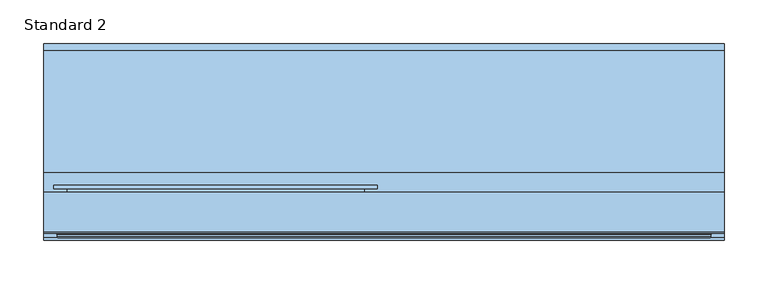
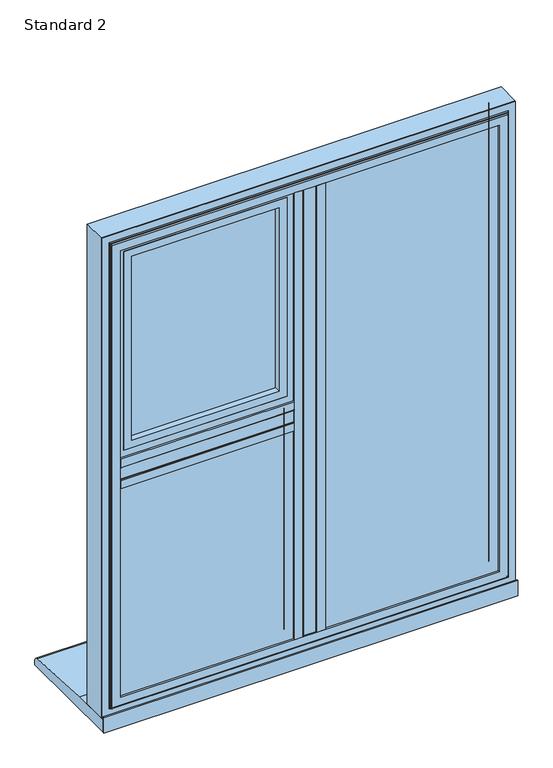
"""IFC4 building model written with IfcOpenShell, lengths in millimetres: window geometry, SMARTS_AlithermHeritage : Standard 2."""

from ifc_helpers import new_model, si_unit, point, frame, frame_2d, origin, place, context, project, spatial, polyline, circle_curve, ellipse_curve, trimmed, segment, composite_curve, outline, extrude, faceted_brep, source, transform, mapped, element, save
from ifc_brep_helpers import plane_surface, cylinder_surface, revolved_surface, advanced_brep


def standard_2_606d7e47(model_context):
    return source(origin(), model_context, "Body", "SolidModel", [
        extrude(outline(polyline([(-13.6941456, 95.2798432), (13.6941456, 95.2798432), (13.6941456, 47.279476), (-13.6941456, 47.279476), (-13.6941456, 95.2798432)])), frame((0.0, 0.0, 652.6941456), z_axis=(0.0, 0.0, 1.0), x_axis=(1.0, 0.0, 0.0)), (0.0, 0.0, 1.0), 919.6117089),
        extrude(outline(composite_curve([segment(polyline([(-29.0, 47.279476), (29.0, 47.279476), (29.0, 43.2798432), (13.0, 43.2798432)]), True, "CONTINUOUS"), segment(trimmed(circle_curve(frame_2d((13.0, 44.2798432)), 1.0), [point((13.0, 43.2798432))], [point((12.0, 44.2798432))], False, "CARTESIAN"), True, "CONTINUOUS"), segment(polyline([(12.0, 44.2798432), (12.0, 45.7798432), (-12.0, 45.7798432), (-12.0, 44.2798432)]), True, "CONTINUOUS"), segment(trimmed(circle_curve(frame_2d((-13.0, 44.2798432)), 1.0), [point((-12.0, 44.2798432))], [point((-13.0, 43.2798432))], False, "CARTESIAN"), True, "CONTINUOUS"), segment(polyline([(-13.0, 43.2798432), (-29.0, 43.2798432), (-29.0, 47.279476)]), True, "CONTINUOUS")], self_intersect=False)), frame((0.0, 0.0, 668.0), z_axis=(0.0, 0.0, 1.0), x_axis=(1.0, 0.0, 0.0)), (0.0, 0.0, 1.0), 889.0),
        extrude(outline(polyline([(-13.6941456, 95.2798432), (-13.6941456, 47.279476), (-372.3058544, 47.279476), (-372.3058544, 95.2798432), (-13.6941456, 95.2798432)])), frame((0.0, 0.0, 1098.8058544), z_axis=(0.0, 0.0, 1.0), x_axis=(1.0, 0.0, 0.0)), (0.0, 0.0, 1.0), 27.3882911),
        extrude(outline(composite_curve([segment(polyline([(47.279476, 1083.5), (43.2798432, 1083.5), (43.2798432, 1099.5)]), True, "CONTINUOUS"), segment(trimmed(circle_curve(frame_2d((44.2798432, 1099.5)), 1.0), [point((43.2798432, 1099.5))], [point((44.2798432, 1100.5))], False, "CARTESIAN"), True, "CONTINUOUS"), segment(polyline([(44.2798432, 1100.5), (45.7798432, 1100.5), (45.7798432, 1124.5), (44.2798432, 1124.5)]), True, "CONTINUOUS"), segment(trimmed(circle_curve(frame_2d((44.2798432, 1125.5)), 1.0), [point((44.2798432, 1124.5))], [point((43.2798432, 1125.5))], False, "CARTESIAN"), True, "CONTINUOUS"), segment(polyline([(43.2798432, 1125.5), (43.2798432, 1141.5), (47.279476, 1141.5), (47.279476, 1083.5)]), True, "CONTINUOUS")], self_intersect=False)), frame((-357.0, 0.0, 0.0), z_axis=(1.0, 0.0, 0.0), x_axis=(0.0, 1.0, 0.0)), (0.0, 0.0, 1.0), 328.0),
        extrude(outline(polyline([(-367.0, 75.2798432), (-19.0, 75.2798432), (-19.0, 71.2798432), (-367.0, 71.2798432), (-367.0, 75.2798432)])), frame((0.0, 0.0, 658.0), z_axis=(0.0, 0.0, 1.0), x_axis=(1.0, 0.0, 0.0)), (0.0, 0.0, 1.0), 435.5),
        extrude(outline(polyline([(-367.0, 55.2798432), (-19.0, 55.2798432), (-19.0, 51.2798432), (-367.0, 51.2798432), (-367.0, 55.2798432)])), frame((0.0, 0.0, 658.0), z_axis=(0.0, 0.0, 1.0), x_axis=(1.0, 0.0, 0.0)), (0.0, 0.0, 1.0), 435.5),
        extrude(outline(polyline([(1093.5, -367.0), (658.0, -367.0), (658.0, -19.0), (1093.5, -19.0), (1093.5, -367.0)]), holes=[polyline([(1083.5, -29.0), (668.0, -29.0), (668.0, -357.0), (1083.5, -357.0), (1083.5, -29.0)])]), frame((0.0, 55.2798432, 0.0), z_axis=(0.0, 1.0, 0.0), x_axis=(0.0, 0.0, 1.0)), (0.0, 0.0, 1.0), 16.0),
        faceted_brep([(-19.1851151, 95.2798432, 1093.3148849), (-29.0, 78.2798098, 1083.5), (-357.0, 78.2798098, 1083.5), (-366.8148849, 95.2798432, 1093.3148849), (-13.6297324, 78.2798098, 1098.8702676), (-13.6297324, 95.2798432, 1098.8702676), (-372.3702676, 95.2798432, 1098.8702676), (-372.3702676, 78.2798098, 1098.8702676), (-372.3702676, 78.2798098, 652.6297324), (-372.3702676, 95.2798432, 652.6297324), (-13.6297324, 95.2798432, 652.6297324), (-13.6297324, 78.2798098, 652.6297324), (-366.8148849, 95.2798432, 658.1851151), (-19.1851151, 95.2798432, 658.1851151), (-29.0, 78.2798098, 668.0), (-357.0, 78.2798098, 668.0)], [[[0, 1, 2, 3]], [[4, 5, 6, 7]], [[8, 9, 10, 11]], [[5, 10, 9, 6], [3, 12, 13, 0]], [[7, 8, 11, 4], [1, 14, 15, 2]], [[3, 2, 15, 12]], [[7, 6, 9, 8]], [[12, 15, 14, 13]], [[13, 14, 1, 0]], [[11, 10, 5, 4]]]),
        extrude(outline(polyline([(-343.5, 89.2798432), (-42.5, 89.2798432), (-42.5, 85.2798432), (-343.5, 85.2798432), (-343.5, 89.2798432)])), frame((0.0, 0.0, 1155.0), z_axis=(0.0, 0.0, 1.0), x_axis=(1.0, 0.0, 0.0)), (0.0, 0.0, 1.0), 388.5),
        extrude(outline(polyline([(-343.5, 69.2798432), (-42.5, 69.2798432), (-42.5, 65.2798432), (-343.5, 65.2798432), (-343.5, 69.2798432)])), frame((0.0, 0.0, 1155.0), z_axis=(0.0, 0.0, 1.0), x_axis=(1.0, 0.0, 0.0)), (0.0, 0.0, 1.0), 388.5),
        extrude(outline(polyline([(1543.5, -343.5), (1155.0, -343.5), (1155.0, -42.5), (1543.5, -42.5), (1543.5, -343.5)]), holes=[polyline([(1533.5, -52.5), (1165.0, -52.5), (1165.0, -333.5), (1533.5, -333.5), (1533.5, -52.5)])]), frame((0.0, 69.2798432, 0.0), z_axis=(0.0, 1.0, 0.0), x_axis=(0.0, 0.0, 1.0)), (0.0, 0.0, 1.0), 16.0),
        extrude(outline(polyline([(1547.0052956, -347.0052956), (1151.4947044, -347.0052956), (1151.4947044, -38.9947044), (1547.0052956, -38.9947044), (1547.0052956, -347.0052956)]), holes=[polyline([(1532.0, -54.0), (1166.5, -54.0), (1166.5, -332.0), (1532.0, -332.0), (1532.0, -54.0)])]), frame((0.0, 51.2798432, 0.0), z_axis=(0.0, 1.0, 0.0), x_axis=(0.0, 0.0, 1.0)), (0.0, 0.0, 1.0), 11.3),
        extrude(outline(polyline([(1135.8548042, -362.6451958), (1135.8548042, -23.3548042), (1562.6451958, -23.3548042), (1562.6451958, -362.6451958), (1135.8548042, -362.6451958)]), holes=[polyline([(1547.0, -347.0), (1547.0, -39.0), (1151.5, -39.0), (1151.5, -347.0), (1547.0, -347.0)])]), frame((0.0, 51.2798432, 0.0), z_axis=(0.0, 1.0, 0.0), x_axis=(0.0, 0.0, 1.0)), (0.0, 0.0, 1.0), 41.6),
        advanced_brep(
        [(-332.0, 98.0798432, 1532.0), (-332.0, 92.8798432, 1532.0), (-332.0, 92.8798432, 1166.5), (-332.0, 98.0798432, 1166.5), (-54.0, 92.8798432, 1166.5), (-54.0, 98.0798432, 1166.5), (-54.0, 92.8798432, 1532.0), (-54.0, 98.0798432, 1532.0), (-378.2, 99.2798432, 1578.2), (-378.2, 103.2798432, 1578.2), (-378.2, 103.2798432, 1120.3), (-378.2, 99.2798432, 1120.3), (-7.8, 103.2798432, 1120.3), (-7.8, 99.2798432, 1120.3), (-7.8, 103.2798432, 1578.2), (-7.8, 99.2798432, 1578.2), (-363.1467657, 99.2798432, 1563.1467657), (-22.8532343, 99.2798432, 1563.1467657), (-22.8532343, 99.2798432, 1135.3532343), (-363.1467657, 99.2798432, 1135.3532343), (-349.2, 103.2798432, 1149.3), (-36.8, 103.2798432, 1149.3), (-36.8, 103.2798432, 1549.2), (-349.2, 103.2798432, 1549.2), (-363.1467657, 92.8798432, 1563.1467657), (-363.1467657, 92.8798432, 1135.3532343), (-22.8532343, 92.8798432, 1135.3532343), (-22.8532343, 92.8798432, 1563.1467657), (-347.2, 101.2798432, 1547.2), (-347.2, 100.0798432, 1547.2), (-347.2, 100.0798432, 1151.3), (-347.2, 101.2798432, 1151.3), (-345.2, 98.0798432, 1545.2), (-345.2, 98.0798432, 1153.3), (-38.8, 100.0798432, 1151.3), (-38.8, 101.2798432, 1151.3), (-40.8, 98.0798432, 1153.3), (-38.8, 100.0798432, 1547.2), (-38.8, 101.2798432, 1547.2), (-40.8, 98.0798432, 1545.2)],
        [
            (0, 1),
            (1, 2),
            (2, 3),
            (3, 0),
            (2, 4),
            (4, 5),
            (5, 3),
            (4, 6),
            (6, 7),
            (7, 5),
            (6, 1),
            (0, 7),
            (8, 9),
            (9, 10),
            (10, 11),
            (11, 8),
            (10, 12),
            (12, 13),
            (13, 11),
            (12, 14),
            (14, 15),
            (15, 13),
            (15, 8),
            (16, 17),
            (17, 18),
            (18, 19),
            (19, 16),
            (14, 9),
            (20, 21),
            (21, 22),
            (22, 23),
            (23, 20),
            (24, 16),
            (19, 25),
            (25, 24),
            (18, 26),
            (26, 25),
            (17, 27),
            (27, 26),
            (27, 24),
            (28, 29),
            (29, 30),
            (30, 31),
            (31, 28),
            (29, 32, ellipse_curve(frame((-345.2, 100.0798432, 1545.2), z_axis=(0.7071067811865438, 0.0, 0.7071067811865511), x_axis=(0.707106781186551, 0.0, -0.7071067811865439)), 2.8284271, 2.0)),
            (32, 33),
            (33, 30, ellipse_curve(frame((-345.2, 100.0798432, 1153.3), z_axis=(0.7071067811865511, 0.0, -0.7071067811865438), x_axis=(-0.7071067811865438, 0.0, -0.7071067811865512)), 2.8284271, 2.0)),
            (30, 34),
            (34, 35),
            (35, 31),
            (33, 36),
            (36, 34, ellipse_curve(frame((-40.8, 100.0798432, 1153.3), z_axis=(0.7071067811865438, 0.0, 0.7071067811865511), x_axis=(0.7071067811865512, 0.0, -0.7071067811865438)), 2.8284271, 2.0)),
            (34, 37),
            (37, 38),
            (38, 35),
            (36, 39),
            (39, 37, ellipse_curve(frame((-40.8, 100.0798432, 1545.2), z_axis=(-0.7071067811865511, 0.0, 0.7071067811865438), x_axis=(0.7071067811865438, 0.0, 0.7071067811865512)), 2.8284271, 2.0)),
            (32, 39),
            (37, 29),
            (28, 38),
            (23, 28, ellipse_curve(frame((-349.2, 101.2798432, 1549.2), z_axis=(-0.7071067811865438, 0.0, -0.7071067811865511), x_axis=(-0.707106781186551, 0.0, 0.7071067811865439)), 2.8284271, 2.0)),
            (31, 20, ellipse_curve(frame((-349.2, 101.2798432, 1149.3), z_axis=(-0.7071067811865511, 0.0, 0.7071067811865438), x_axis=(0.7071067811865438, 0.0, 0.7071067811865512)), 2.8284271, 2.0)),
            (35, 21, ellipse_curve(frame((-36.8, 101.2798432, 1149.3), z_axis=(-0.7071067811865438, 0.0, -0.7071067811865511), x_axis=(-0.7071067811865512, 0.0, 0.7071067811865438)), 2.8284271, 2.0)),
            (38, 22, ellipse_curve(frame((-36.8, 101.2798432, 1549.2), z_axis=(0.7071067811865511, 0.0, -0.7071067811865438), x_axis=(-0.7071067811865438, 0.0, -0.7071067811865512)), 2.8284271, 2.0)),
        ],
        [
            plane_surface(frame((-332.0, 92.8798432, 1532.0), z_axis=(1.0, 0.0, 0.0), x_axis=(0.0, 0.0, -1.0))),
            plane_surface(frame((-332.0, 92.8798432, 1166.5), z_axis=(0.0, 0.0, 1.0), x_axis=(1.0, 0.0, 0.0))),
            plane_surface(frame((-54.0, 92.8798432, 1166.5), z_axis=(-1.0, 0.0, 0.0), x_axis=(0.0, 0.0, 1.0))),
            plane_surface(frame((-54.0, 92.8798432, 1532.0), z_axis=(0.0, 0.0, -1.0), x_axis=(-1.0, 0.0, 0.0))),
            plane_surface(frame((-378.2, 103.2798432, 1578.2), z_axis=(-1.0, 0.0, 0.0), x_axis=(0.0, 0.0, -1.0))),
            plane_surface(frame((-378.2, 103.2798432, 1120.3), z_axis=(0.0, 0.0, -1.0), x_axis=(1.0, 0.0, 0.0))),
            plane_surface(frame((-7.8, 103.2798432, 1120.3), z_axis=(1.0, 0.0, 0.0), x_axis=(0.0, 0.0, 1.0))),
            plane_surface(frame((-7.8, 99.2798432, 1578.2), z_axis=(0.0, -1.0, 0.0), x_axis=(-1.0, 0.0, 0.0))),
            plane_surface(frame((-7.8, 103.2798432, 1578.2), z_axis=(0.0, 0.0, 1.0), x_axis=(-1.0, 0.0, 0.0))),
            plane_surface(frame((-36.8, 103.2798432, 1549.2), z_axis=(0.0, 1.0, 0.0), x_axis=(-1.0, 0.0, 0.0))),
            plane_surface(frame((-363.1467657, 99.2798432, 1563.1467657), z_axis=(-1.0, 0.0, 0.0), x_axis=(0.0, 0.0, -1.0))),
            plane_surface(frame((-363.1467657, 99.2798432, 1135.3532343), z_axis=(0.0, 0.0, -1.0), x_axis=(1.0, 0.0, 0.0))),
            plane_surface(frame((-22.8532343, 99.2798432, 1135.3532343), z_axis=(1.0, 0.0, 0.0), x_axis=(0.0, 0.0, 1.0))),
            plane_surface(frame((-22.8532343, 92.8798432, 1563.1467657), z_axis=(0.0, -1.0, 0.0), x_axis=(-1.0, 0.0, 0.0))),
            plane_surface(frame((-22.8532343, 99.2798432, 1563.1467657), z_axis=(0.0, 0.0, 1.0), x_axis=(-1.0, 0.0, 0.0))),
            plane_surface(frame((-347.2, 100.0798432, 1547.2), z_axis=(1.0, 0.0, 0.0), x_axis=(0.0, 0.0, -1.0))),
            revolved_surface(polyline([(-347.2, 100.0798432, 1151.3), (-347.2, 100.0798432, 1547.2)]), (-345.2, 100.0798432, 1557.0), (0.0, 0.0, -1.0)),
            plane_surface(frame((-347.2, 100.0798432, 1151.3), z_axis=(0.0, 0.0, 1.0), x_axis=(1.0, 0.0, 0.0))),
            revolved_surface(polyline([(-38.80000000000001, 100.0798432, 1151.3), (-347.2, 100.0798432, 1151.3)]), (-357.0, 100.0798432, 1153.3), (1.0, 0.0, 0.0)),
            plane_surface(frame((-38.8, 100.0798432, 1151.3), z_axis=(-1.0, 0.0, 0.0), x_axis=(0.0, 0.0, 1.0))),
            revolved_surface(polyline([(-38.8, 100.0798432, 1547.2), (-38.8, 100.0798432, 1151.3)]), (-40.8, 100.0798432, 1141.5), (0.0, 0.0, 1.0)),
            plane_surface(frame((-54.0, 98.0798432, 1532.0), z_axis=(0.0, 1.0, 0.0), x_axis=(-1.0, 0.0, 0.0))),
            plane_surface(frame((-38.8, 100.0798432, 1547.2), z_axis=(0.0, 0.0, -1.0), x_axis=(-1.0, 0.0, 0.0))),
            revolved_surface(polyline([(-347.2, 100.0798432, 1547.2), (-38.8, 100.0798432, 1547.2)]), (-29.0, 100.0798432, 1545.2), (-1.0, 0.0, 0.0)),
            cylinder_surface(frame((-349.2, 101.2798432, 1557.0), z_axis=(0.0, 0.0, 1.0), x_axis=(-1.0, 0.0, 0.0)), 2.0),
            cylinder_surface(frame((-357.0, 101.2798432, 1149.3), z_axis=(-1.0, 0.0, 0.0), x_axis=(0.0, 0.0, -1.0)), 2.0),
            cylinder_surface(frame((-36.8, 101.2798432, 1141.5), z_axis=(0.0, 0.0, -1.0), x_axis=(1.0, 0.0, 0.0)), 2.0),
            cylinder_surface(frame((-29.0, 101.2798432, 1549.2), z_axis=(1.0, 0.0, 0.0), x_axis=(0.0, 0.0, 1.0)), 2.0),
        ],
        [
            (0, [[1, 2, 3, 4]]),
            (1, [[-3, 5, 6, 7]]),
            (2, [[-6, 8, 9, 10]]),
            (3, [[-9, 11, -1, 12]]),
            (4, [[13, 14, 15, 16]]),
            (5, [[-15, 17, 18, 19]]),
            (6, [[-18, 20, 21, 22]]),
            (7, [[-19, -22, 23, -16], [24, 25, 26, 27]]),
            (8, [[-21, 28, -13, -23]]),
            (9, [[-28, -20, -17, -14], [29, 30, 31, 32]]),
            (10, [[33, -27, 34, 35]]),
            (11, [[-34, -26, 36, 37]]),
            (12, [[-36, -25, 38, 39]]),
            (13, [[-37, -39, 40, -35], [-11, -8, -5, -2]]),
            (14, [[-38, -24, -33, -40]]),
            (15, [[41, 42, 43, 44]]),
            (16, [[45, 46, 47, -42]]),
            (17, [[-43, 48, 49, 50]]),
            (18, [[-47, 51, 52, -48]]),
            (19, [[-49, 53, 54, 55]]),
            (20, [[-52, 56, 57, -53]]),
            (21, [[58, -56, -51, -46], [-7, -10, -12, -4]]),
            (22, [[-54, 59, -41, 60]]),
            (23, [[-57, -58, -45, -59]]),
            (24, [[61, -44, 62, -32]]),
            (25, [[-62, -50, 63, -29]]),
            (26, [[-63, -55, 64, -30]]),
            (27, [[-64, -60, -61, -31]]),
        ],
    ),
        extrude(outline(polyline([(1590.0, 390.0), (1590.0, -390.0), (635.0, -390.0), (635.0, 390.0), (1590.0, 390.0)]), holes=[polyline([(652.7000182, 372.2999818), (652.7000182, -372.2999818), (1572.2999818, -372.2999818), (1572.2999818, 372.2999818), (652.7000182, 372.2999818)])]), frame((0.0, 50.279857, 0.0), z_axis=(0.0, 1.0, 0.0), x_axis=(0.0, 0.0, 1.0)), (0.0, 0.0, 1.0), 44.9999962),
        advanced_brep(
        [(357.0, 43.2798432, 1557.0), (357.0, 47.2798432, 1557.0), (357.0, 47.2798432, 668.0), (357.0, 43.2798432, 668.0), (390.0, 50.279857, 1590.0), (390.0, 48.279857, 1590.0), (390.0, 48.279857, 635.0), (390.0, 50.279857, 635.0), (372.4999818, 43.2798432, 1572.4999818), (-372.4999818, 43.2798432, 1572.4999818), (-372.4999818, 43.2798432, 652.5000182), (372.4999818, 43.2798432, 652.5000182), (-357.0, 43.2798432, 668.0), (-357.0, 43.2798432, 1557.0), (-390.0, 50.279857, 1590.0), (-390.0, 48.279857, 1590.0), (-390.0, 50.279857, 635.0), (372.2999818, 50.279857, 1572.2999818), (-372.2999818, 50.279857, 1572.2999818), (-372.2999818, 50.279857, 652.7000182), (372.2999818, 50.279857, 652.7000182), (-357.0, 47.2798432, 1557.0), (-357.0, 47.2798432, 668.0), (-390.0, 48.279857, 635.0), (-372.2999818, 47.2798432, 1572.2999818), (372.2999818, 47.2798432, 1572.2999818), (372.2999818, 47.2798432, 652.7000182), (374.4999818, 46.779857, 650.5000182), (374.4999818, 45.2798432, 650.5000182), (-374.4999818, 45.2798432, 650.5000182), (-374.4999818, 46.779857, 650.5000182), (374.4999818, 46.779857, 1574.4999818), (374.4999818, 45.2798432, 1574.4999818), (-372.2999818, 47.2798432, 652.7000182), (-374.4999818, 45.2798432, 1574.4999818), (-374.4999818, 46.779857, 1574.4999818), (375.9999818, 48.279857, 1575.9999818), (375.9999818, 48.279857, 649.0000182), (-375.9999818, 48.279857, 649.0000182), (-375.9999818, 48.279857, 1575.9999818)],
        [
            (0, 1),
            (1, 2),
            (2, 3),
            (3, 0),
            (4, 5),
            (5, 6),
            (6, 7),
            (7, 4),
            (8, 9),
            (9, 10),
            (10, 11),
            (11, 8),
            (3, 12),
            (12, 13),
            (13, 0),
            (14, 15),
            (15, 5),
            (4, 14),
            (7, 16),
            (16, 14),
            (17, 18),
            (18, 19),
            (19, 20),
            (20, 17),
            (13, 21),
            (21, 1),
            (2, 22),
            (22, 12),
            (22, 21),
            (6, 23),
            (23, 16),
            (23, 15),
            (24, 18),
            (17, 25),
            (25, 24),
            (20, 26),
            (26, 25),
            (27, 28),
            (28, 29),
            (29, 30),
            (30, 27),
            (31, 32),
            (32, 28),
            (27, 31),
            (19, 33),
            (33, 26),
            (24, 33),
            (29, 34),
            (34, 35),
            (35, 30),
            (34, 32),
            (31, 35),
            (36, 31, ellipse_curve(frame((375.9999818, 46.779857, 1575.9999818), z_axis=(-0.7071067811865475, 0.0, 0.7071067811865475), x_axis=(-0.7071067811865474, 0.0, -0.7071067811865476)), 2.1213203, 1.5)),
            (27, 37, ellipse_curve(frame((375.9999818, 46.779857, 649.0000182), z_axis=(-0.7071067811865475, 0.0, -0.7071067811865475), x_axis=(0.7071067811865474, 0.0, -0.7071067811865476)), 2.1213203, 1.5)),
            (37, 36),
            (30, 38, ellipse_curve(frame((-375.9999818, 46.779857, 649.0000182), z_axis=(-0.7071067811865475, 0.0, 0.7071067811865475), x_axis=(-0.7071067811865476, 0.0, -0.7071067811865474)), 2.1213203, 1.5)),
            (38, 37),
            (35, 39, ellipse_curve(frame((-375.9999818, 46.779857, 1575.9999818), z_axis=(0.7071067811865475, 0.0, 0.7071067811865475), x_axis=(-0.7071067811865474, 0.0, 0.7071067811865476)), 2.1213203, 1.5)),
            (39, 38),
            (36, 39),
            (32, 8, ellipse_curve(frame((372.4999818, 45.2798432, 1572.4999818), z_axis=(0.7071067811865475, 0.0, -0.7071067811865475), x_axis=(0.7071067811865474, 0.0, 0.7071067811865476)), 2.8284271, 2.0)),
            (11, 28, ellipse_curve(frame((372.4999818, 45.2798432, 652.5000182), z_axis=(0.7071067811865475, 0.0, 0.7071067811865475), x_axis=(-0.7071067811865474, 0.0, 0.7071067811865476)), 2.8284271, 2.0)),
            (10, 29, ellipse_curve(frame((-372.4999818, 45.2798432, 652.5000182), z_axis=(0.7071067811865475, 0.0, -0.7071067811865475), x_axis=(0.7071067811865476, 0.0, 0.7071067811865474)), 2.8284271, 2.0)),
            (9, 34, ellipse_curve(frame((-372.4999818, 45.2798432, 1572.4999818), z_axis=(-0.7071067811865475, 0.0, -0.7071067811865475), x_axis=(0.7071067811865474, 0.0, -0.7071067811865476)), 2.8284271, 2.0)),
        ],
        [
            plane_surface(frame((357.0, 47.2798432, 1557.0), z_axis=(-1.0, 0.0, 0.0), x_axis=(0.0, 0.0, -1.0))),
            plane_surface(frame((390.0, 48.279857, 1590.0), z_axis=(1.0, 0.0, 0.0), x_axis=(0.0, 0.0, -1.0))),
            plane_surface(frame((-357.0, 43.2798432, 1557.0), z_axis=(0.0, -1.0, 0.0), x_axis=(1.0, 0.0, 0.0))),
            plane_surface(frame((-390.0, 48.279857, 1590.0), z_axis=(0.0, 0.0, 1.0), x_axis=(1.0, 0.0, 0.0))),
            plane_surface(frame((-390.0, 50.279857, 1590.0), z_axis=(0.0, 1.0, 0.0), x_axis=(1.0, 0.0, 0.0))),
            plane_surface(frame((-357.0, 47.2798432, 1557.0), z_axis=(0.0, 0.0, -1.0), x_axis=(1.0, 0.0, 0.0))),
            plane_surface(frame((357.0, 47.2798432, 668.0), z_axis=(0.0, 0.0, 1.0), x_axis=(-1.0, 0.0, 0.0))),
            plane_surface(frame((-357.0, 47.2798432, 668.0), z_axis=(1.0, 0.0, 0.0), x_axis=(0.0, 0.0, 1.0))),
            plane_surface(frame((390.0, 48.279857, 635.0), z_axis=(0.0, 0.0, -1.0), x_axis=(-1.0, 0.0, 0.0))),
            plane_surface(frame((-390.0, 48.279857, 635.0), z_axis=(-1.0, 0.0, 0.0), x_axis=(0.0, 0.0, 1.0))),
            plane_surface(frame((-372.2999818, 50.279857, 1572.2999818), z_axis=(0.0, 0.0, -1.0), x_axis=(1.0, 0.0, 0.0))),
            plane_surface(frame((372.2999818, 50.279857, 1572.2999818), z_axis=(-1.0, 0.0, 0.0), x_axis=(0.0, 0.0, -1.0))),
            plane_surface(frame((374.4999818, 45.2798432, 650.5000182), z_axis=(0.0, 0.0, -1.0), x_axis=(-1.0, 0.0, 0.0))),
            plane_surface(frame((374.4999818, 45.2798432, 1574.4999818), z_axis=(1.0, 0.0, 0.0), x_axis=(0.0, 0.0, -1.0))),
            plane_surface(frame((372.2999818, 50.279857, 652.7000182), z_axis=(0.0, 0.0, 1.0), x_axis=(-1.0, 0.0, 0.0))),
            plane_surface(frame((-372.2999818, 50.279857, 652.7000182), z_axis=(1.0, 0.0, 0.0), x_axis=(0.0, 0.0, 1.0))),
            plane_surface(frame((-374.4999818, 45.2798432, 650.5000182), z_axis=(-1.0, 0.0, 0.0), x_axis=(0.0, 0.0, 1.0))),
            plane_surface(frame((-372.2999818, 47.2798432, 1572.2999818), z_axis=(0.0, 1.0, 0.0), x_axis=(1.0, 0.0, 0.0))),
            plane_surface(frame((-374.4999818, 45.2798432, 1574.4999818), z_axis=(0.0, 0.0, 1.0), x_axis=(1.0, 0.0, 0.0))),
            revolved_surface(polyline([(374.4999818, 46.779857, 647.5000182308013), (374.4999818, 46.779857, 1577.4999817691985)]), (375.9999818, 46.779857, 1590.0), (0.0, 0.0, -1.0)),
            revolved_surface(polyline([(-377.4999817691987, 46.779857, 650.5000182), (377.49998176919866, 46.779857, 650.5000182)]), (390.0, 46.779857, 649.0000182), (-1.0, 0.0, 0.0)),
            revolved_surface(polyline([(-374.4999818, 46.779857, 1577.4999817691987), (-374.4999818, 46.779857, 647.5000182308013)]), (-375.9999818, 46.779857, 635.0), (0.0, 0.0, 1.0)),
            revolved_surface(polyline([(377.4999817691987, 46.779857, 1574.4999818), (-377.49998176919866, 46.779857, 1574.4999818)]), (-390.0, 46.779857, 1575.9999818), (1.0, 0.0, 0.0)),
            plane_surface(frame((-375.9999818, 48.279857, 1575.9999818), z_axis=(0.0, -1.0, 0.0), x_axis=(1.0, 0.0, 0.0))),
            cylinder_surface(frame((372.4999818, 45.2798432, 1590.0), z_axis=(0.0, 0.0, 1.0), x_axis=(-1.0, 0.0, 0.0)), 2.0),
            cylinder_surface(frame((390.0, 45.2798432, 652.5000182), z_axis=(1.0, 0.0, 0.0), x_axis=(0.0, 0.0, 1.0)), 2.0),
            cylinder_surface(frame((-372.4999818, 45.2798432, 635.0), z_axis=(0.0, 0.0, -1.0), x_axis=(1.0, 0.0, 0.0)), 2.0),
            cylinder_surface(frame((-390.0, 45.2798432, 1572.4999818), z_axis=(-1.0, 0.0, 0.0), x_axis=(0.0, 0.0, -1.0)), 2.0),
        ],
        [
            (0, [[1, 2, 3, 4]]),
            (1, [[5, 6, 7, 8]]),
            (2, [[9, 10, 11, 12], [13, 14, 15, -4]]),
            (3, [[16, 17, -5, 18]]),
            (4, [[19, 20, -18, -8], [21, 22, 23, 24]]),
            (5, [[25, 26, -1, -15]]),
            (6, [[-3, 27, 28, -13]]),
            (7, [[-28, 29, -25, -14]]),
            (8, [[-7, 30, 31, -19]]),
            (9, [[-31, 32, -16, -20]]),
            (10, [[33, -21, 34, 35]]),
            (11, [[-34, -24, 36, 37]]),
            (12, [[38, 39, 40, 41]]),
            (13, [[42, 43, -38, 44]]),
            (14, [[-36, -23, 45, 46]]),
            (15, [[-45, -22, -33, 47]]),
            (16, [[-40, 48, 49, 50]]),
            (17, [[-46, -47, -35, -37], [-26, -29, -27, -2]]),
            (18, [[-49, 51, -42, 52]]),
            (19, [[53, -44, 54, 55]]),
            (20, [[-54, -41, 56, 57]]),
            (21, [[-56, -50, 58, 59]]),
            (22, [[-58, -52, -53, 60]]),
            (23, [[-17, -32, -30, -6], [-57, -59, -60, -55]]),
            (24, [[61, -12, 62, -43]]),
            (25, [[-62, -11, 63, -39]]),
            (26, [[-63, -10, 64, -48]]),
            (27, [[-64, -9, -61, -51]]),
        ],
    ),
        extrude(outline(polyline([(19.0, 75.2798432), (367.0, 75.2798432), (367.0, 71.2798432), (19.0, 71.2798432), (19.0, 75.2798432)])), frame((0.0, 0.0, 658.0), z_axis=(0.0, 0.0, 1.0), x_axis=(1.0, 0.0, 0.0)), (0.0, 0.0, 1.0), 909.0),
        extrude(outline(polyline([(19.0, 55.2798432), (367.0, 55.2798432), (367.0, 51.2798432), (19.0, 51.2798432), (19.0, 55.2798432)])), frame((0.0, 0.0, 658.0), z_axis=(0.0, 0.0, 1.0), x_axis=(1.0, 0.0, 0.0)), (0.0, 0.0, 1.0), 909.0),
        extrude(outline(polyline([(1567.0, 19.0), (658.0, 19.0), (658.0, 367.0), (1567.0, 367.0), (1567.0, 19.0)]), holes=[polyline([(1557.0, 357.0), (668.0, 357.0), (668.0, 29.0), (1557.0, 29.0), (1557.0, 357.0)])]), frame((0.0, 55.2798432, 0.0), z_axis=(0.0, 1.0, 0.0), x_axis=(0.0, 0.0, 1.0)), (0.0, 0.0, 1.0), 16.0),
        faceted_brep([(366.8148849, 95.2798432, 1566.8148849), (357.0, 78.2798098, 1557.0), (29.0, 78.2798098, 1557.0), (19.1851151, 95.2798432, 1566.8148849), (372.3702676, 78.2798098, 1572.3702676), (372.3702676, 95.2798432, 1572.3702676), (13.6297324, 95.2798432, 1572.3702676), (13.6297324, 78.2798098, 1572.3702676), (13.6297324, 78.2798098, 652.6297324), (13.6297324, 95.2798432, 652.6297324), (372.3702676, 95.2798432, 652.6297324), (372.3702676, 78.2798098, 652.6297324), (19.1851151, 95.2798432, 658.1851151), (366.8148849, 95.2798432, 658.1851151), (357.0, 78.2798098, 668.0), (29.0, 78.2798098, 668.0)], [[[0, 1, 2, 3]], [[4, 5, 6, 7]], [[8, 9, 10, 11]], [[5, 10, 9, 6], [3, 12, 13, 0]], [[7, 8, 11, 4], [1, 14, 15, 2]], [[3, 2, 15, 12]], [[7, 6, 9, 8]], [[12, 15, 14, 13]], [[13, 14, 1, 0]], [[11, 10, 5, 4]]]),
        extrude(outline(polyline([(390.0, 43.2798432), (390.0, 40.7798432), (-390.0, 40.7798432), (-390.0, 43.2798432), (390.0, 43.2798432)])), frame((0.0, 0.0, 610.0), z_axis=(0.0, 0.0, 1.0), x_axis=(1.0, 0.0, 0.0)), (0.0, 0.0, 1.0), 31.0),
        extrude(outline(composite_curve([segment(polyline([(265.7798432, 610.0), (43.2798432, 610.0), (43.2798432, 635.0), (118.7798432, 635.0), (258.4770891, 625.9276664)]), True, "CONTINUOUS"), segment(trimmed(circle_curve(frame_2d((257.7798432, 617.9581088)), 8.0), [point((258.4770891, 625.9276664))], [point((265.7798432, 617.9581088))], False, "CARTESIAN"), True, "CONTINUOUS"), segment(polyline([(265.7798432, 617.9581088), (265.7798432, 610.0)]), True, "CONTINUOUS")], self_intersect=False)), frame((-390.0, 0.0, 0.0), z_axis=(1.0, 0.0, 0.0), x_axis=(0.0, 1.0, 0.0)), (0.0, 0.0, 1.0), 780.0),
    ])


if __name__ == "__main__":
    model = new_model("IFC4")
    model_context = context("Model", 3, world=origin())
    ifc_project = project(units=[si_unit("LENGTHUNIT", "METRE", prefix="MILLI")], contexts=[model_context])
    site = spatial("IfcSite", under=ifc_project)
    building = spatial("IfcBuilding", under=site)
    placement = place(None, origin())
    standard_2_shape = standard_2_606d7e47(model_context)
    element("IfcWindow", 1, ObjectType="SMARTS_AlithermHeritage : Standard 2", at=placement, inside=building, context=model_context, shape_type="MappedRepresentation", body=[
        mapped(standard_2_shape, transform((0.0, 0.0, 0.0), x_axis=(1.0, 0.0, 0.0), y_axis=(0.0, 1.0, 0.0), z_axis=(0.0, 0.0, 1.0))),
    ])
    save(model, "model.ifc")
